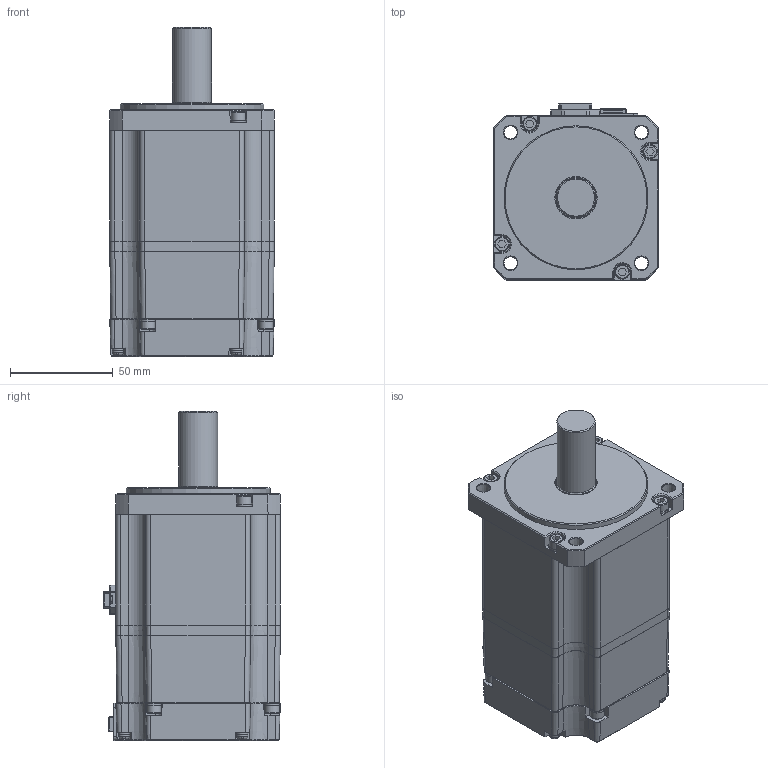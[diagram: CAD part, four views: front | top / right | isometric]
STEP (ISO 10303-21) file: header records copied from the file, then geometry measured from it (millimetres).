
FILE_DESCRIPTION (( 'STEP AP214' ), '1' );
FILE_NAME ('EM08GA004G02_Out Line(APM-EC06AM3N2).STEP', '2022-11-10T03:19:18', ( '' ), ( '' ), 'SwSTEP 2.0', 'SolidWorks 2021', '' );
FILE_SCHEMA (( 'AUTOMOTIVE_DESIGN' ));
Length unit declared in the file: millimetre
Products named in the file (1): EM08GA004G02_Out Line(APM-EC06AM3N2)
Bounding box: 80 x 85.9 x 160 mm (x, y, z)
Volume: 694176.8 mm3; surface area: 112045.6 mm2
Topology: 34 solids, 34 shells, 1569 faces, 3923 edges, 2490 vertices
Faces by surface type: plane 1118, cylinder 233, cone 144, torus 31, bspline 29, sphere 14
Full cylindrical faces by diameter (mm): 1.589 x1, 1.6 x9, 2 x2, 2.1 x2, 2.5 x8, 3 x8, 3.3 x8, 4 x12, 4.5 x8, 5.4 x8, 7 x8, 7.2 x8, 19 x1, 19.8 x1, 20.6 x1, 70 x1
Entity records: 64167 total; most frequent: CARTESIAN_POINT 10171, ORIENTED_EDGE 7432, DIRECTION 7149, EDGE_CURVE 3716, VECTOR 2749, LINE 2749, VERTEX_POINT 2443, AXIS2_PLACEMENT_3D 2200
